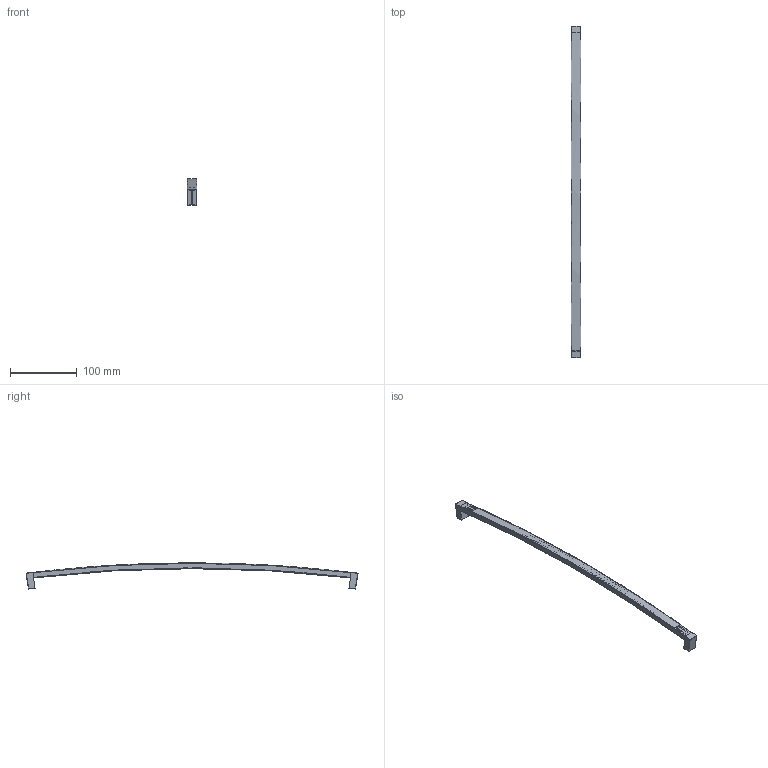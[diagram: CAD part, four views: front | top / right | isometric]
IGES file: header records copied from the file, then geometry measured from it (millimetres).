
Start section: C
Global section: file name: 0839 R2000.igs; native system: By Siemens PLM Incorporated; preprocessor: XPlus GENERIC/IGES 16.0.42; author: Author; organization: Title; date: 20260104.142007; units: millimetre
Bounding box: 14.5 x 498 x 39.36 mm (x, y, z)
Surface area: 44642.4 mm2 (no closed solid volume)
Topology: 0 solids, 0 shells, 740 faces, 3816 edges, 3804 vertices
Faces by surface type: bspline 740
